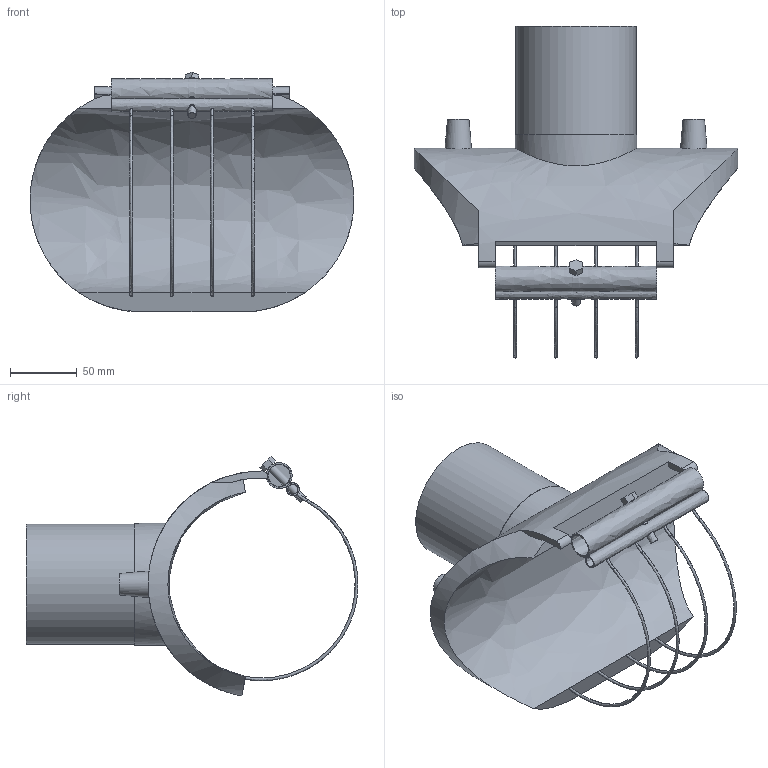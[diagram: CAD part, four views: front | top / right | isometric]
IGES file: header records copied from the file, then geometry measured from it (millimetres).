
Global section: file name: 4958X4140090T; native system: Autodesk Inventor 2021; preprocessor: unknown; author: KIM; date: 20250507.121505; units: millimetre
Bounding box: 242 x 248 x 179.22 mm (x, y, z)
Volume: 892889.5 mm3; surface area: 184942.9 mm2
Topology: 1 solids, 1 shells, 62 faces, 187 edges, 126 vertices
Faces by surface type: bspline 62
